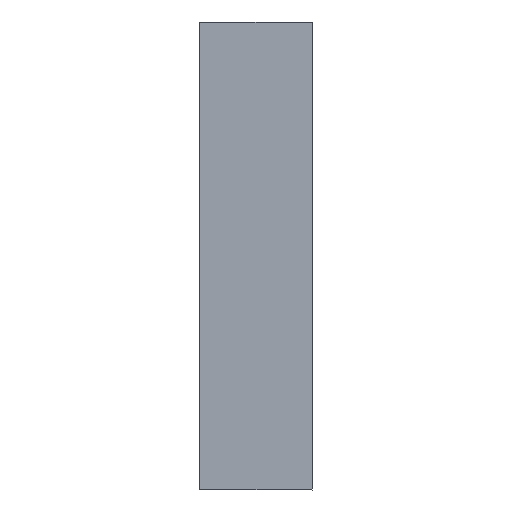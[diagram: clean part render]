
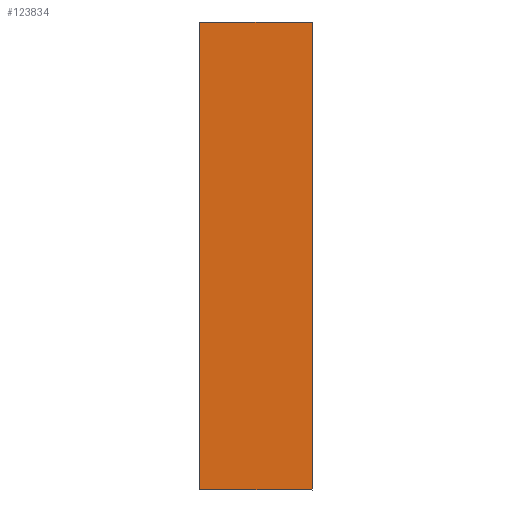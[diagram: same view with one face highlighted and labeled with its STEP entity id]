
A CAD part, front view. The second image highlights one B-rep face of the part: STEP entity #123834.
In plain terms, the highlighted planar face has unit normal (0, -1, 0).
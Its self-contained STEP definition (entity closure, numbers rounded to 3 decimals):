
#5170 = EDGE_CURVE ( 'NONE', #110101, #138113, #144089, .T. ) ;
#12113 = VECTOR ( 'NONE', #123113, 1000. ) ;
#16615 = CARTESIAN_POINT ( 'NONE',  ( -1496.798, -200., 6037.97 ) ) ;
#16709 = DIRECTION ( 'NONE',  ( -1., 0., 0. ) ) ;
#16744 = ORIENTED_EDGE ( 'NONE', *, *, #82452, .F. ) ;
#17157 = LINE ( 'NONE', #129586, #53017 ) ;
#17663 = ORIENTED_EDGE ( 'NONE', *, *, #5170, .F. ) ;
#28170 = DIRECTION ( 'NONE',  ( 0., 0., -1. ) ) ;
#36175 = EDGE_LOOP ( 'NONE', ( #17663, #101258, #106973, #16744 ) ) ;
#40087 = VECTOR ( 'NONE', #28170, 1000. ) ;
#44663 = EDGE_CURVE ( 'NONE', #71937, #105985, #17157, .T. ) ;
#45358 = DIRECTION ( 'NONE',  ( -1., 0., 0. ) ) ;
#53017 = VECTOR ( 'NONE', #45358, 1000. ) ;
#57038 = CARTESIAN_POINT ( 'NONE',  ( -2096.798, -200., 6037.97 ) ) ;
#65095 = AXIS2_PLACEMENT_3D ( 'NONE', #88417, #88969, #16709 ) ;
#71937 = VERTEX_POINT ( 'NONE', #147595 ) ;
#76008 = LINE ( 'NONE', #16615, #40087 ) ;
#76409 = FACE_OUTER_BOUND ( 'NONE', #36175, .T. ) ;
#82426 = VECTOR ( 'NONE', #94647, 1000. ) ;
#82452 = EDGE_CURVE ( 'NONE', #138113, #71937, #76008, .T. ) ;
#86204 = LINE ( 'NONE', #155260, #82426 ) ;
#88417 = CARTESIAN_POINT ( 'NONE',  ( -1796.798, -200., 7287.97 ) ) ;
#88969 = DIRECTION ( 'NONE',  ( 0., 1., 0. ) ) ;
#90804 = CARTESIAN_POINT ( 'NONE',  ( -2096.798, -200., 8537.97 ) ) ;
#94647 = DIRECTION ( 'NONE',  ( 0., 0., 1. ) ) ;
#101258 = ORIENTED_EDGE ( 'NONE', *, *, #122549, .F. ) ;
#105985 = VERTEX_POINT ( 'NONE', #57038 ) ;
#106973 = ORIENTED_EDGE ( 'NONE', *, *, #44663, .F. ) ;
#110101 = VERTEX_POINT ( 'NONE', #90804 ) ;
#117257 = CARTESIAN_POINT ( 'NONE',  ( -1496.798, -200., 8537.97 ) ) ;
#122549 = EDGE_CURVE ( 'NONE', #105985, #110101, #86204, .T. ) ;
#123113 = DIRECTION ( 'NONE',  ( 1., 0., 0. ) ) ;
#123834 = ADVANCED_FACE ( 'NONE', ( #76409 ), #148993, .F. ) ;
#129586 = CARTESIAN_POINT ( 'NONE',  ( -1496.798, -200., 6037.97 ) ) ;
#138113 = VERTEX_POINT ( 'NONE', #140729 ) ;
#140729 = CARTESIAN_POINT ( 'NONE',  ( -1496.798, -200., 8537.97 ) ) ;
#144089 = LINE ( 'NONE', #117257, #12113 ) ;
#147595 = CARTESIAN_POINT ( 'NONE',  ( -1496.798, -200., 6037.97 ) ) ;
#148993 = PLANE ( 'NONE',  #65095 ) ;
#155260 = CARTESIAN_POINT ( 'NONE',  ( -2096.798, -200., 6037.97 ) ) ;
